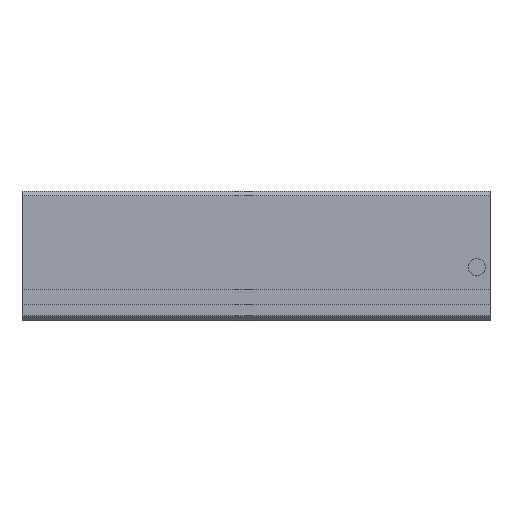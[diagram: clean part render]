
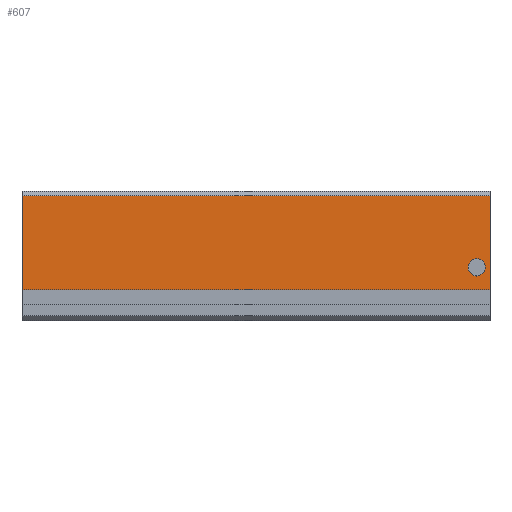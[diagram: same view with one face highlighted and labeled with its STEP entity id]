
A CAD part, top view. The second image highlights one B-rep face of the part: STEP entity #607.
In plain terms, the highlighted planar face has unit normal (0, 0, 1).
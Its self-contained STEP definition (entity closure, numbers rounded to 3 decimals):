
#43 = CARTESIAN_POINT ( 'NONE',  ( 97.15, 11.392, 0. ) ) ;
#49 = VERTEX_POINT ( 'NONE', #232 ) ;
#67 = DIRECTION ( 'NONE',  ( -1., 0., 0. ) ) ;
#73 = EDGE_CURVE ( 'NONE', #49, #500, #785, .T. ) ;
#200 = CARTESIAN_POINT ( 'NONE',  ( 100., 26.7, 0. ) ) ;
#232 = CARTESIAN_POINT ( 'NONE',  ( 95.3, 11.392, 0. ) ) ;
#267 = EDGE_CURVE ( 'NONE', #2269, #1689, #1730, .T. ) ;
#292 = DIRECTION ( 'NONE',  ( 0., -1., 0. ) ) ;
#342 = ORIENTED_EDGE ( 'NONE', *, *, #73, .F. ) ;
#372 = DIRECTION ( 'NONE',  ( 0., 0., -1. ) ) ;
#385 = PLANE ( 'NONE',  #506 ) ;
#396 = CARTESIAN_POINT ( 'NONE',  ( 100., 0., 0. ) ) ;
#404 = DIRECTION ( 'NONE',  ( 0., 0., 1. ) ) ;
#415 = EDGE_LOOP ( 'NONE', ( #2326, #692, #1072, #1363 ) ) ;
#435 = CARTESIAN_POINT ( 'NONE',  ( 100., 6.6, 0. ) ) ;
#445 = ORIENTED_EDGE ( 'NONE', *, *, #777, .F. ) ;
#500 = VERTEX_POINT ( 'NONE', #1516 ) ;
#506 = AXIS2_PLACEMENT_3D ( 'NONE', #396, #372, #547 ) ;
#547 = DIRECTION ( 'NONE',  ( -1., 0., 0. ) ) ;
#553 = CIRCLE ( 'NONE', #1256, 1.85 ) ;
#607 = ADVANCED_FACE ( 'NONE', ( #1482, #1404 ), #385, .F. ) ;
#608 = LINE ( 'NONE', #1367, #1895 ) ;
#627 = DIRECTION ( 'NONE',  ( 0., 0., 1. ) ) ;
#663 = CARTESIAN_POINT ( 'NONE',  ( 0., 26.7, 0. ) ) ;
#692 = ORIENTED_EDGE ( 'NONE', *, *, #1584, .T. ) ;
#737 = AXIS2_PLACEMENT_3D ( 'NONE', #43, #404, #67 ) ;
#763 = DIRECTION ( 'NONE',  ( -1., 0., 0. ) ) ;
#777 = EDGE_CURVE ( 'NONE', #500, #49, #553, .T. ) ;
#785 = CIRCLE ( 'NONE', #737, 1.85 ) ;
#804 = EDGE_LOOP ( 'NONE', ( #342, #445 ) ) ;
#955 = VECTOR ( 'NONE', #1258, 1000. ) ;
#1072 = ORIENTED_EDGE ( 'NONE', *, *, #1252, .T. ) ;
#1108 = CARTESIAN_POINT ( 'NONE',  ( 100., 26.7, 0. ) ) ;
#1252 = EDGE_CURVE ( 'NONE', #1921, #2269, #608, .T. ) ;
#1256 = AXIS2_PLACEMENT_3D ( 'NONE', #1899, #627, #2250 ) ;
#1258 = DIRECTION ( 'NONE',  ( 1., 0., 0. ) ) ;
#1363 = ORIENTED_EDGE ( 'NONE', *, *, #267, .T. ) ;
#1367 = CARTESIAN_POINT ( 'NONE',  ( 0., 0., 0. ) ) ;
#1389 = VECTOR ( 'NONE', #763, 1000. ) ;
#1404 = FACE_OUTER_BOUND ( 'NONE', #415, .T. ) ;
#1482 = FACE_BOUND ( 'NONE', #804, .T. ) ;
#1516 = CARTESIAN_POINT ( 'NONE',  ( 99., 11.392, 0. ) ) ;
#1584 = EDGE_CURVE ( 'NONE', #1606, #1921, #1857, .T. ) ;
#1606 = VERTEX_POINT ( 'NONE', #1108 ) ;
#1689 = VERTEX_POINT ( 'NONE', #435 ) ;
#1706 = CARTESIAN_POINT ( 'NONE',  ( 100., 0., 0. ) ) ;
#1711 = CARTESIAN_POINT ( 'NONE',  ( 0., 6.6, 0. ) ) ;
#1730 = LINE ( 'NONE', #1961, #955 ) ;
#1762 = VECTOR ( 'NONE', #292, 1000. ) ;
#1857 = LINE ( 'NONE', #200, #1389 ) ;
#1895 = VECTOR ( 'NONE', #2284, 1000. ) ;
#1899 = CARTESIAN_POINT ( 'NONE',  ( 97.15, 11.392, 0. ) ) ;
#1921 = VERTEX_POINT ( 'NONE', #663 ) ;
#1961 = CARTESIAN_POINT ( 'NONE',  ( 0., 6.6, 0. ) ) ;
#2169 = EDGE_CURVE ( 'NONE', #1606, #1689, #2180, .T. ) ;
#2180 = LINE ( 'NONE', #1706, #1762 ) ;
#2250 = DIRECTION ( 'NONE',  ( -1., 0., 0. ) ) ;
#2269 = VERTEX_POINT ( 'NONE', #1711 ) ;
#2284 = DIRECTION ( 'NONE',  ( 0., -1., 0. ) ) ;
#2326 = ORIENTED_EDGE ( 'NONE', *, *, #2169, .F. ) ;
